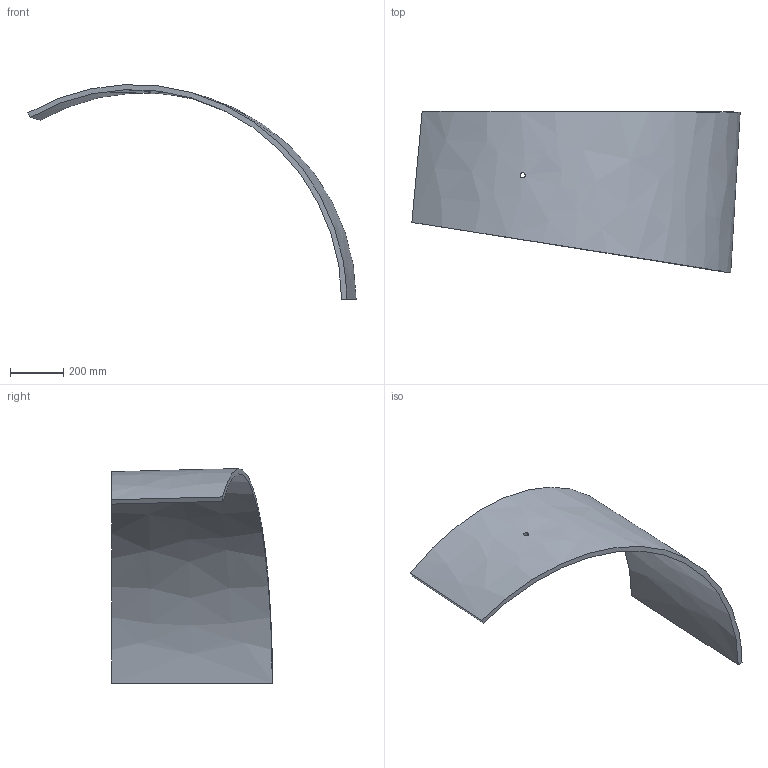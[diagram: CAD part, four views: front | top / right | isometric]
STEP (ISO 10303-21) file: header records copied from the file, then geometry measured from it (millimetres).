
FILE_DESCRIPTION (( 'STEP AP214' ), '1' );
FILE_NAME ('Section 4-C.STEP', '2025-01-09T19:43:27', ( '' ), ( '' ), 'SwSTEP 2.0', 'SolidWorks 2024', '' );
FILE_SCHEMA (( 'AUTOMOTIVE_DESIGN' ));
Length unit declared in the file: inch
Products named in the file (1): Section 4-C
Bounding box: 1228.72 x 602.52 x 803.3 mm (x, y, z)
Volume: 16621978.4 mm3; surface area: 1828408.6 mm2
Topology: 1 solids, 1 shells, 7 faces, 15 edges, 10 vertices
Faces by surface type: bspline 6, cylinder 1
Full cylindrical faces by diameter (mm): 19.431 x1
Entity records: 517 total; most frequent: CARTESIAN_POINT 380, ORIENTED_EDGE 28, B_SPLINE_CURVE_WITH_KNOTS 14, EDGE_CURVE 14, VERTEX_POINT 10, EDGE_LOOP 10, FACE_OUTER_BOUND 8, ADVANCED_FACE 7
